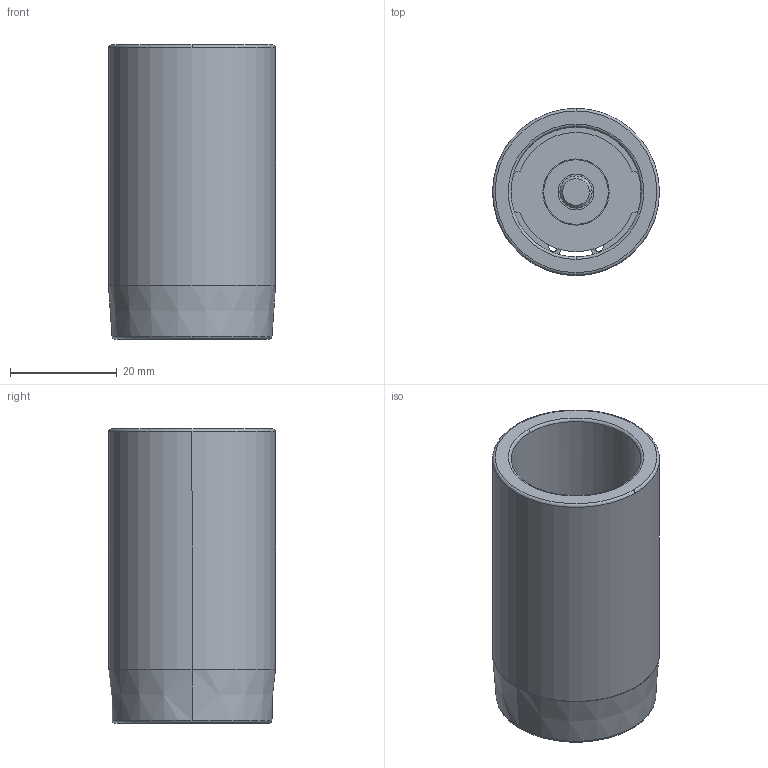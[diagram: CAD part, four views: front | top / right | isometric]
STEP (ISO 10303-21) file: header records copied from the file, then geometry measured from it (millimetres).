
FILE_DESCRIPTION((''),'2;1');
FILE_NAME('C12_024_055.stp','2009-01-28T08:28:48',(''),(''),'Mechanical Desktop 2009','Mechanical Desktop 2009',', , ');
FILE_SCHEMA(('CONFIG_CONTROL_DESIGN'));
Length unit declared in the file: millimetre
Products named in the file (2): Product; blmdl1
Assembly tree (1 placements, depth 2):
  Product
    blmdl1
Bounding box: 31.25 x 31.25 x 55 mm (x, y, z)
Volume: 17937.1 mm3; surface area: 13056.9 mm2
Topology: 5 solids, 5 shells, 79 faces, 200 edges, 134 vertices
Faces by surface type: cylinder 34, plane 29, torus 10, cone 6
Entity records: 2585 total; most frequent: DIRECTION 480, CARTESIAN_POINT 435, ORIENTED_EDGE 400, AXIS2_PLACEMENT_3D 203, EDGE_CURVE 200, VERTEX_POINT 134, CIRCLE 122, EDGE_LOOP 92
